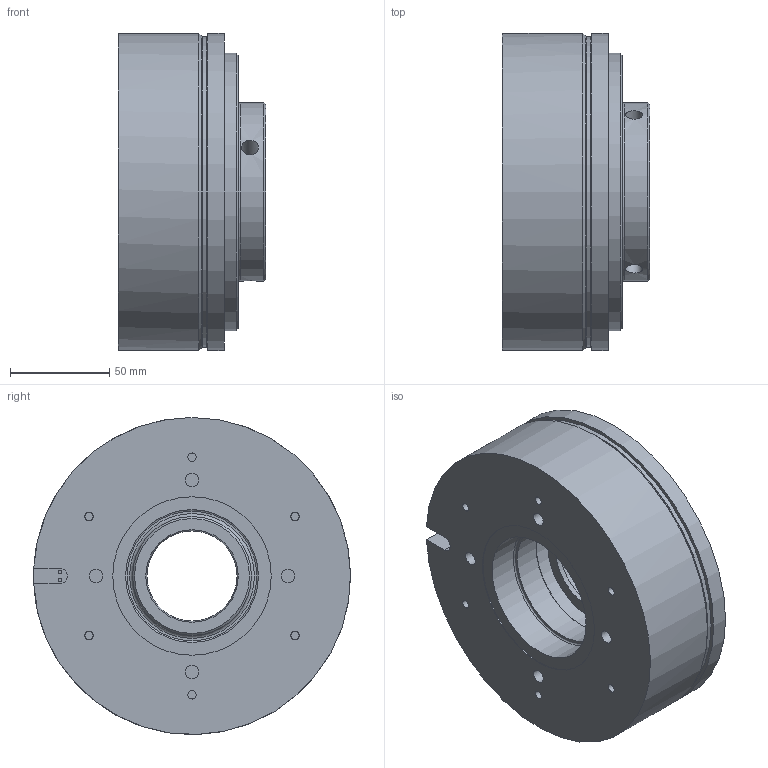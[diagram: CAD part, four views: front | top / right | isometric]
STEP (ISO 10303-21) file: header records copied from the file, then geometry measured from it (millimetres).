
FILE_DESCRIPTION (( 'STEP AP203' ), '1' );
FILE_NAME ('86_61116K00_00551348.STEP', '2025-03-26T12:21:39', ( '' ), ( '' ), 'SwSTEP 2.0', 'SolidWorks 2022', '' );
FILE_SCHEMA (( 'CONFIG_CONTROL_DESIGN' ));
Length unit declared in the file: millimetre
Products named in the file (1): 86_61116K00_00551348
Bounding box: 74.6 x 160 x 160 mm (x, y, z)
Volume: 1043368.8 mm3; surface area: 125679 mm2
Topology: 2 solids, 2 shells, 67 faces, 118 edges, 74 vertices
Faces by surface type: cylinder 29, plane 26, cone 8, torus 4
Full cylindrical faces by diameter (mm): 1.8 x2, 4.2 x6, 6.8 x4, 8.5 x3, 45.5 x1, 60 x1, 63 x1, 67 x1, 69 x1, 80 x1, 83 x1, 90 x1, 133.5 x1, 140 x1, 157 x1, 160 x2
Entity records: 1887 total; most frequent: CARTESIAN_POINT 608, DIRECTION 270, ORIENTED_EDGE 154, EDGE_LOOP 136, AXIS2_PLACEMENT_3D 131, FACE_OUTER_BOUND 99, EDGE_CURVE 77, VERTEX_POINT 73
